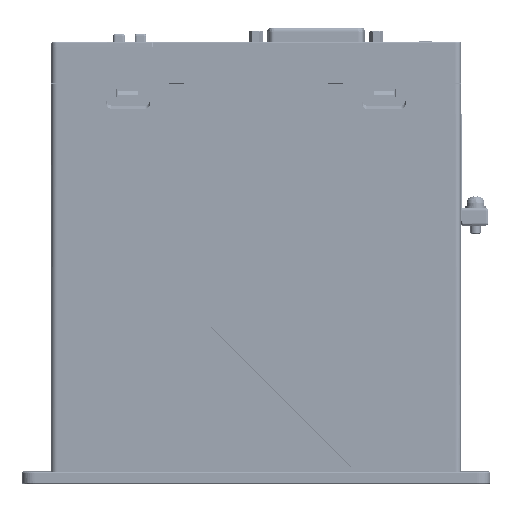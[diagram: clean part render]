
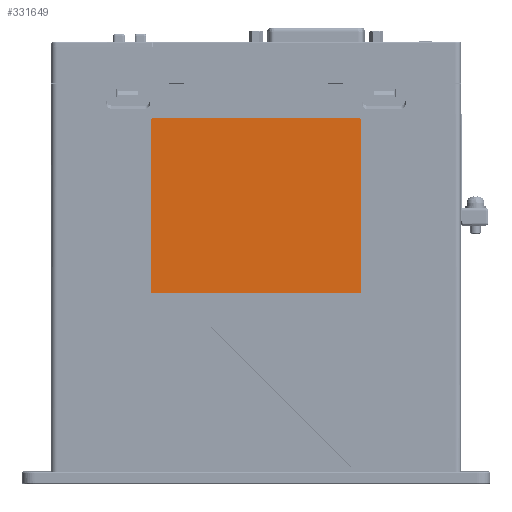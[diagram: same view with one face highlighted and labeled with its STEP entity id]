
A CAD part, top view. The second image highlights one B-rep face of the part: STEP entity #331649.
In plain terms, the highlighted planar face has unit normal (0, 0, 1).
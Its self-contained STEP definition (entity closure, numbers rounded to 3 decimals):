
#274381=CARTESIAN_POINT('',(-40.5,75.1,24.65));
#274382=DIRECTION('',(0.,0.,-1.));
#274383=DIRECTION('',(0.,-1.,0.));
#274384=AXIS2_PLACEMENT_3D('',#274381,#274382,#274383);
#274386=DIRECTION('',(0.,1.,0.));
#274387=VECTOR('',#274386,67.4);
#274388=CARTESIAN_POINT('',(-41.,75.1,24.65));
#274389=LINE('',#274388,#274387);
#274390=CARTESIAN_POINT('',(-40.5,142.5,24.65));
#274391=DIRECTION('',(0.,0.,-1.));
#274392=DIRECTION('',(-1.,0.,0.));
#274393=AXIS2_PLACEMENT_3D('',#274390,#274391,#274392);
#274395=DIRECTION('',(1.,0.,0.));
#274396=VECTOR('',#274395,81.);
#274397=CARTESIAN_POINT('',(-40.5,143.,24.65));
#274398=LINE('',#274397,#274396);
#274399=CARTESIAN_POINT('',(40.5,142.5,24.65));
#274400=DIRECTION('',(0.,0.,-1.));
#274401=DIRECTION('',(0.,1.,0.));
#274402=AXIS2_PLACEMENT_3D('',#274399,#274400,#274401);
#274404=DIRECTION('',(0.,-1.,0.));
#274405=VECTOR('',#274404,67.4);
#274406=CARTESIAN_POINT('',(41.,142.5,24.65));
#274407=LINE('',#274406,#274405);
#274408=CARTESIAN_POINT('',(40.5,75.1,24.65));
#274409=DIRECTION('',(0.,0.,-1.));
#274410=DIRECTION('',(1.,0.,0.));
#274411=AXIS2_PLACEMENT_3D('',#274408,#274409,#274410);
#274413=DIRECTION('',(-1.,0.,0.));
#274414=VECTOR('',#274413,81.);
#274415=CARTESIAN_POINT('',(40.5,74.6,24.65));
#274416=LINE('',#274415,#274414);
#285164=CARTESIAN_POINT('',(-41.,75.1,24.65));
#285165=VERTEX_POINT('',#285164);
#285166=CARTESIAN_POINT('',(-41.,142.5,24.65));
#285167=VERTEX_POINT('',#285166);
#285168=CARTESIAN_POINT('',(-40.5,74.6,24.65));
#285169=VERTEX_POINT('',#285168);
#285170=CARTESIAN_POINT('',(-40.5,143.,24.65));
#285171=VERTEX_POINT('',#285170);
#285172=CARTESIAN_POINT('',(40.5,143.,24.65));
#285173=VERTEX_POINT('',#285172);
#285174=CARTESIAN_POINT('',(41.,142.5,24.65));
#285175=VERTEX_POINT('',#285174);
#285176=CARTESIAN_POINT('',(41.,75.1,24.65));
#285177=VERTEX_POINT('',#285176);
#285178=CARTESIAN_POINT('',(40.5,74.6,24.65));
#285179=VERTEX_POINT('',#285178);
#331628=CARTESIAN_POINT('',(0.,5.,24.65));
#331629=DIRECTION('',(0.,0.,1.));
#331630=DIRECTION('',(0.,1.,0.));
#331631=AXIS2_PLACEMENT_3D('',#331628,#331629,#331630);
#331632=PLANE('',#331631);
#331633=ORIENTED_EDGE('',*,*,#331612,.T.);
#331634=ORIENTED_EDGE('',*,*,#331595,.T.);
#331636=ORIENTED_EDGE('',*,*,#331635,.T.);
#331638=ORIENTED_EDGE('',*,*,#331637,.T.);
#331640=ORIENTED_EDGE('',*,*,#331639,.T.);
#331642=ORIENTED_EDGE('',*,*,#331641,.T.);
#331644=ORIENTED_EDGE('',*,*,#331643,.T.);
#331646=ORIENTED_EDGE('',*,*,#331645,.T.);
#331647=EDGE_LOOP('',(#331633,#331634,#331636,#331638,#331640,#331642,#331644,
#331646));
#331648=FACE_OUTER_BOUND('',#331647,.F.);
#274385=CIRCLE('',#274384,0.5);
#274394=CIRCLE('',#274393,0.5);
#274403=CIRCLE('',#274402,0.5);
#274412=CIRCLE('',#274411,0.5);
#331595=EDGE_CURVE('',#285165,#285167,#274389,.T.);
#331612=EDGE_CURVE('',#285169,#285165,#274385,.T.);
#331635=EDGE_CURVE('',#285167,#285171,#274394,.T.);
#331637=EDGE_CURVE('',#285171,#285173,#274398,.T.);
#331639=EDGE_CURVE('',#285173,#285175,#274403,.T.);
#331641=EDGE_CURVE('',#285175,#285177,#274407,.T.);
#331643=EDGE_CURVE('',#285177,#285179,#274412,.T.);
#331645=EDGE_CURVE('',#285179,#285169,#274416,.T.);
#331649=ADVANCED_FACE('',(#331648),#331632,.T.);
